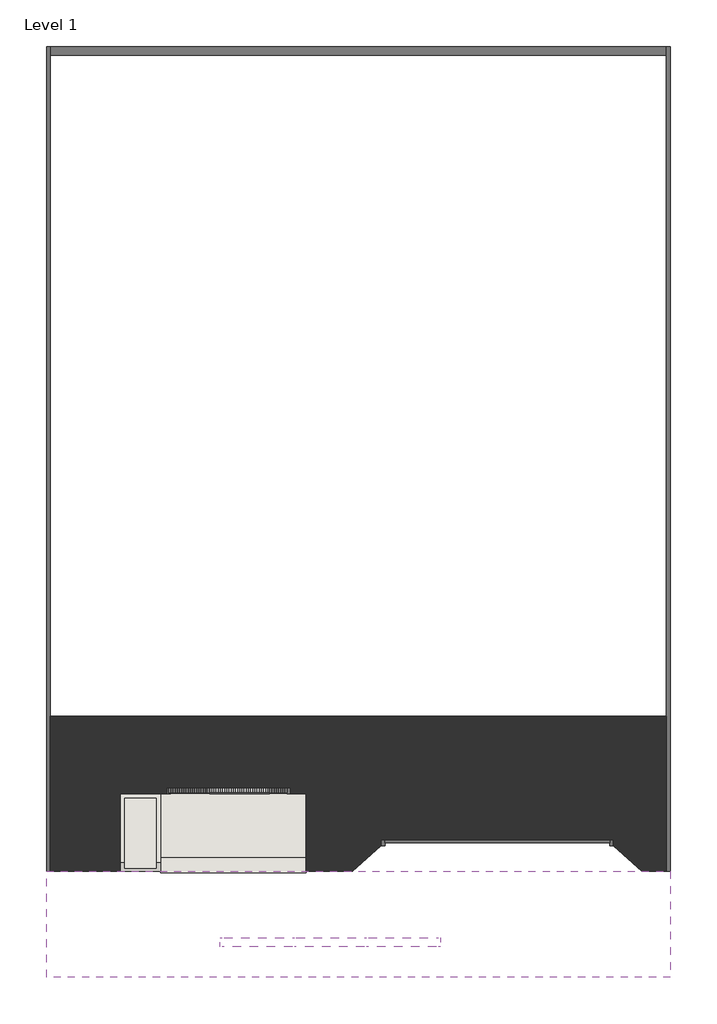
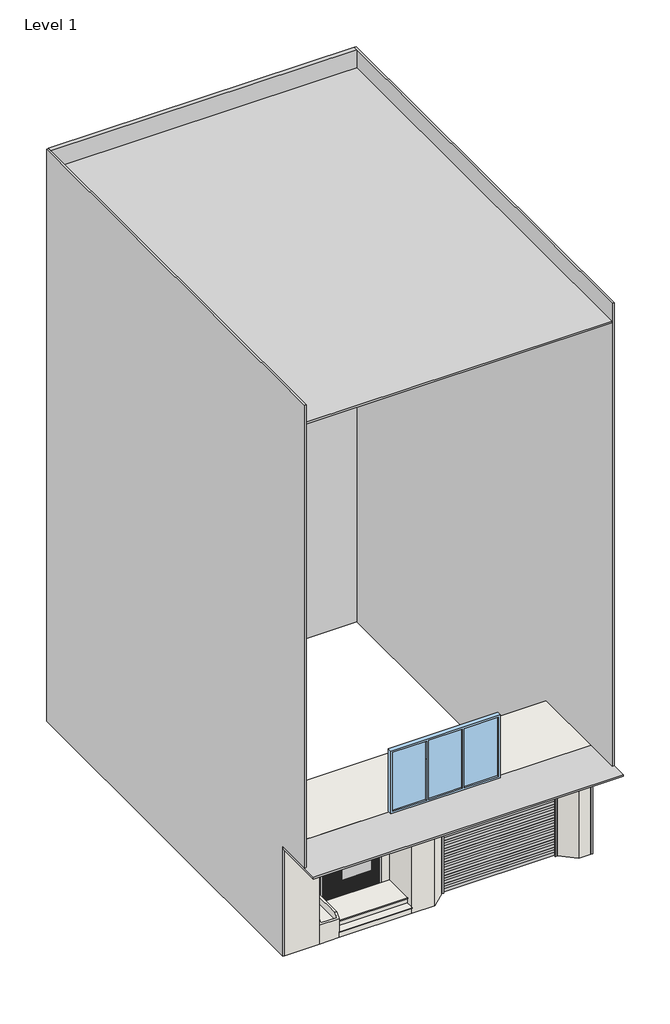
# One storey: 7 proxies, 2 walls, 1 window.
"""IFC4 building model written with IfcOpenShell, lengths in millimetres."""

from ifc_helpers import new_model, si_unit, origin, place, context, project, spatial, transform, mapped, element, save
from components import generic_models_18_generic_models_18_ca94e609, generic_models_19_generic_models_19_655a388a, generic_models_24_generic_models_18_24982d96, generic_models_25_generic_models_25_5dc60e3b, generic_models_26_generic_models_26_6b175dbb, generic_models_27_generic_models_27_ee769881, generic_models_28_generic_models_28_69bf8d54, walls_1_walls_1_745c7847, walls_2_walls_2_d2a09bbc, window_1341161b

model = new_model("IFC4")

# Units and contexts
model_context = context("Model", 3, world=origin())
ifc_project = project(units=[si_unit("LENGTHUNIT", "METRE", prefix="MILLI")], contexts=[model_context])

# Site, building, storey
site = spatial("IfcSite", under=ifc_project)
building = spatial("IfcBuilding", under=site)
storey = spatial("IfcBuildingStorey", under=building, Name="Level 1", Elevation=0.0)

# Proxies
placement = place(None, origin())
generic_models_18_generic_models_18_shape = generic_models_18_generic_models_18_ca94e609(model_context)
element("IfcBuildingElementProxy", 1, Name="Generic Models 18 : Generic Models 18", ObjectType="Generic Models 18 : Generic Models 18", at=placement, inside=storey, context=model_context, shape_type="MappedRepresentation", body=[
    mapped(generic_models_18_generic_models_18_shape, transform((0.0, 0.0, 0.0), x_axis=(1.0, 0.0, 0.0), y_axis=(0.0, 1.0, 0.0), z_axis=(0.0, 0.0, 1.0))),
])
generic_models_19_generic_models_19_shape = generic_models_19_generic_models_19_655a388a(model_context)
element("IfcBuildingElementProxy", 2, Name="Generic Models 19 : Generic Models 19", ObjectType="Generic Models 19 : Generic Models 19", at=placement, inside=storey, context=model_context, shape_type="MappedRepresentation", body=[
    mapped(generic_models_19_generic_models_19_shape, transform((0.0, 0.0, 0.0), x_axis=(1.0, 0.0, 0.0), y_axis=(0.0, 1.0, 0.0), z_axis=(0.0, 0.0, 1.0))),
])
generic_models_24_generic_models_18_shape = generic_models_24_generic_models_18_24982d96(model_context)
element("IfcBuildingElementProxy", 3, Name="Generic Models 24 : Generic Models 18", ObjectType="Generic Models 24 : Generic Models 18", at=placement, inside=storey, context=model_context, shape_type="MappedRepresentation", body=[
    mapped(generic_models_24_generic_models_18_shape, transform((0.0, 0.0, 0.0), x_axis=(1.0, 0.0, 0.0), y_axis=(0.0, 1.0, 0.0), z_axis=(0.0, 0.0, 1.0))),
])
generic_models_25_generic_models_25_shape = generic_models_25_generic_models_25_5dc60e3b(model_context)
element("IfcBuildingElementProxy", 4, Name="Generic Models 25 : Generic Models 25", ObjectType="Generic Models 25 : Generic Models 25", at=placement, inside=storey, context=model_context, shape_type="MappedRepresentation", body=[
    mapped(generic_models_25_generic_models_25_shape, transform((0.0, 0.0, 0.0), x_axis=(1.0, 0.0, 0.0), y_axis=(0.0, 1.0, 0.0), z_axis=(0.0, 0.0, 1.0))),
])
generic_models_26_generic_models_26_shape = generic_models_26_generic_models_26_6b175dbb(model_context)
element("IfcBuildingElementProxy", 5, Name="Generic Models 26 : Generic Models 26", ObjectType="Generic Models 26 : Generic Models 26", at=placement, inside=storey, context=model_context, shape_type="MappedRepresentation", body=[
    mapped(generic_models_26_generic_models_26_shape, transform((0.0, 0.0, 0.0), x_axis=(1.0, 0.0, 0.0), y_axis=(0.0, 1.0, 0.0), z_axis=(0.0, 0.0, 1.0))),
])
generic_models_27_generic_models_27_shape = generic_models_27_generic_models_27_ee769881(model_context)
element("IfcBuildingElementProxy", 6, Name="Generic Models 27 : Generic Models 27", ObjectType="Generic Models 27 : Generic Models 27", at=placement, inside=storey, context=model_context, shape_type="MappedRepresentation", body=[
    mapped(generic_models_27_generic_models_27_shape, transform((0.0, 0.0, 0.0), x_axis=(1.0, 0.0, 0.0), y_axis=(0.0, 1.0, 0.0), z_axis=(0.0, 0.0, 1.0))),
])
generic_models_28_generic_models_28_shape = generic_models_28_generic_models_28_69bf8d54(model_context)
element("IfcBuildingElementProxy", 7, Name="Generic Models 28 : Generic Models 28", ObjectType="Generic Models 28 : Generic Models 28", at=placement, inside=storey, context=model_context, shape_type="MappedRepresentation", body=[
    mapped(generic_models_28_generic_models_28_shape, transform((0.0, 0.0, 0.0), x_axis=(1.0, 0.0, 0.0), y_axis=(0.0, 1.0, 0.0), z_axis=(0.0, 0.0, 1.0))),
])

# Walls
walls_1_walls_1_shape = walls_1_walls_1_745c7847(model_context)
element("IfcWall", 8, ObjectType="Walls 1 : Walls 1", at=placement, inside=storey, context=model_context, shape_type="MappedRepresentation", body=[
    mapped(walls_1_walls_1_shape, transform((0.0, 0.0, 0.0), x_axis=(1.0, 0.0, 0.0), y_axis=(0.0, 1.0, 0.0), z_axis=(0.0, 0.0, 1.0))),
])
walls_2_walls_2_shape = walls_2_walls_2_d2a09bbc(model_context)
element("IfcWall", 9, ObjectType="Walls 2 : Walls 2", at=placement, inside=storey, context=model_context, shape_type="MappedRepresentation", body=[
    mapped(walls_2_walls_2_shape, transform((0.0, 0.0, 0.0), x_axis=(1.0, 0.0, 0.0), y_axis=(0.0, 1.0, 0.0), z_axis=(0.0, 0.0, 1.0))),
])

# Window
window_shape = window_1341161b(model_context)
element("IfcWindow", 10, ObjectType="Aluminum_Exterior_Window_-_3_wide_x_2_high_3891.0001 : 112\"W. x 68\"H.", at=placement, inside=storey, context=model_context, shape_type="MappedRepresentation", body=[
    mapped(window_shape, transform((-7711.3721788, -2322.8873778, 2806.9632449), x_axis=(-1.0, 0.0, 0.0), y_axis=(0.0, -1.0, 0.0), z_axis=(0.0, 0.0, 1.0))),
])

save(model, "model.ifc")
